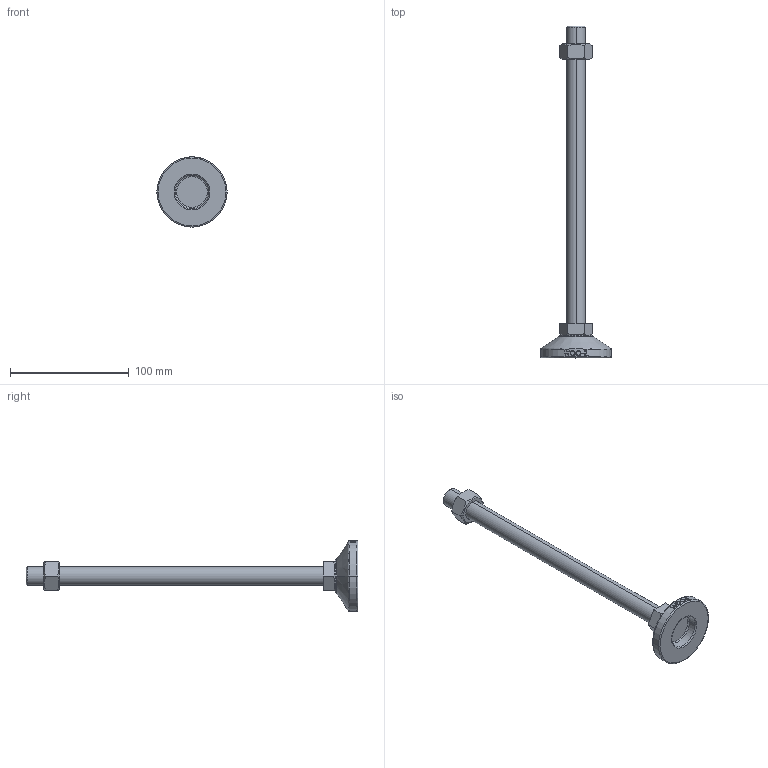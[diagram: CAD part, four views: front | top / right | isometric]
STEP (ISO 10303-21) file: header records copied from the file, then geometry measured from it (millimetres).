
FILE_DESCRIPTION (( 'STEP AP214' ), '1' );
FILE_NAME ('MF59-M16-250.step', '2021-02-03T08:18:20', ( '' ), ( '' ), 'SwSTEP 2.0', 'SolidWorks 2019', '' );
FILE_SCHEMA (( 'AUTOMOTIVE_DESIGN' ));
Length unit declared in the file: millimetre
Products named in the file (2): MF59-M16-250
Bounding box: 59 x 279 x 59 mm (x, y, z)
Volume: 91959.8 mm3; surface area: 24576.3 mm2
Topology: 3 solids, 3 shells, 106 faces, 243 edges, 154 vertices
Faces by surface type: plane 48, cylinder 18, bspline 16, cone 14, torus 10
Entity records: 4448 total; most frequent: CARTESIAN_POINT 2105, ORIENTED_EDGE 486, DIRECTION 439, EDGE_CURVE 243, AXIS2_PLACEMENT_3D 170, VERTEX_POINT 154, EDGE_LOOP 119, ADVANCED_FACE 106
